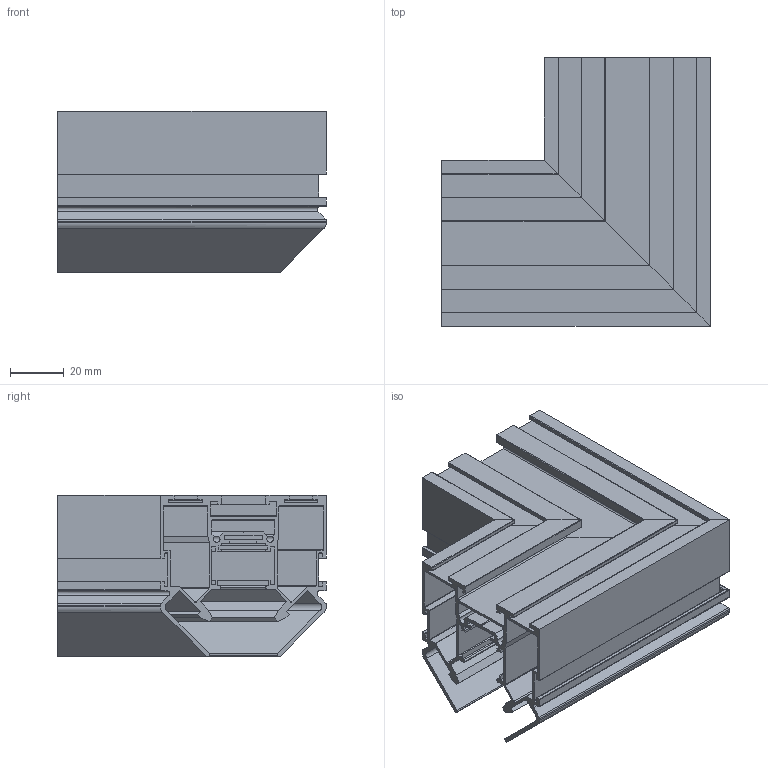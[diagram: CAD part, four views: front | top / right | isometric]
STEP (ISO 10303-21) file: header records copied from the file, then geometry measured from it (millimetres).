
FILE_DESCRIPTION((''),'2;1');
FILE_NAME('RU20-2-ZJ_ASM','2025-03-25T16:13:49',('Administrator'),(''),'CREO PARAMETRIC BY PTC INC, 2020053','CREO PARAMETRIC BY PTC INC, 2020053','');
FILE_SCHEMA(('CONFIG_CONTROL_DESIGN'));
Length unit declared in the file: millimetre
Products named in the file (3): RU20-2-ZJ1; RU20-2-ZJ2; RU20-2-ZJ_ASM
Assembly tree (2 placements, depth 2):
  RU20-2-ZJ_ASM
    RU20-2-ZJ1
    RU20-2-ZJ2
Bounding box: 100 x 100 x 60 mm (x, y, z)
Volume: 76474.5 mm3; surface area: 112435.1 mm2
Topology: 2 solids, 2 shells, 458 faces, 1362 edges, 908 vertices
Faces by surface type: plane 302, cylinder 156
Entity records: 15628 total; most frequent: CARTESIAN_POINT 3379, ORIENTED_EDGE 2724, DIRECTION 2288, EDGE_CURVE 1362, VECTOR 1050, LINE 1050, VERTEX_POINT 908, AXIS2_PLACEMENT_3D 619
